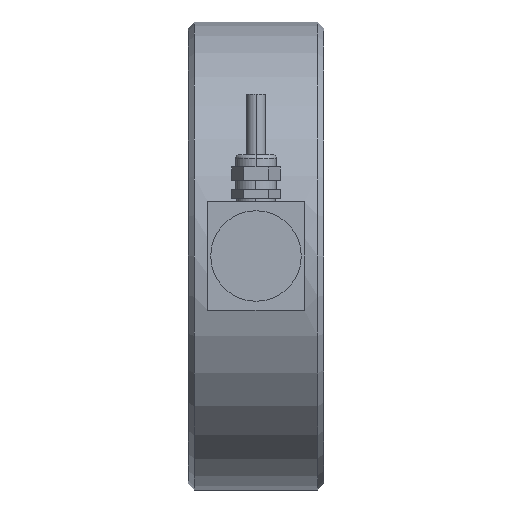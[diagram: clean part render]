
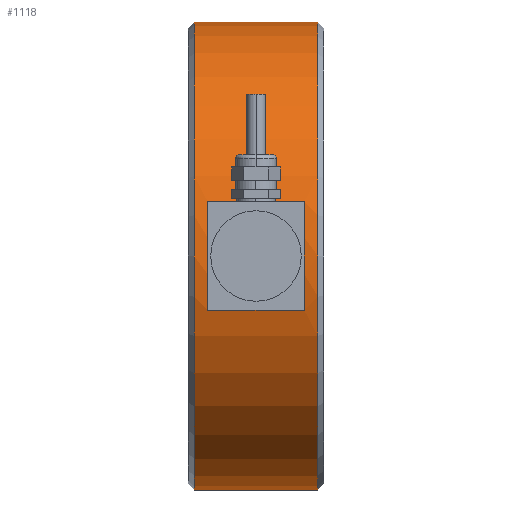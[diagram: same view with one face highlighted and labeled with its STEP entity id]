
A CAD part, left-side view. The second image highlights one B-rep face of the part: STEP entity #1118.
In plain terms, the highlighted cylindrical face has radius 77.5 mm (diameter 155 mm), a partial arc.
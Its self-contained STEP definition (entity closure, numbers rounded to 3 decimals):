
#53 = VERTEX_POINT ( 'NONE', #982 ) ;
#58 = EDGE_CURVE ( 'NONE', #2154, #322, #1004, .T. ) ;
#95 = DIRECTION ( 'NONE',  ( 0., -1., 0. ) ) ;
#108 = EDGE_CURVE ( 'NONE', #1236, #53, #1749, .T. ) ;
#211 = DIRECTION ( 'NONE',  ( 0., 0., 1. ) ) ;
#221 = CIRCLE ( 'NONE', #1543, 77.5 ) ;
#276 = ORIENTED_EDGE ( 'NONE', *, *, #860, .T. ) ;
#322 = VERTEX_POINT ( 'NONE', #1284 ) ;
#470 = LINE ( 'NONE', #2213, #1089 ) ;
#559 = VECTOR ( 'NONE', #1777, 1000. ) ;
#572 = EDGE_LOOP ( 'NONE', ( #1075, #1432, #636, #1220 ) ) ;
#636 = ORIENTED_EDGE ( 'NONE', *, *, #2374, .F. ) ;
#703 = VERTEX_POINT ( 'NONE', #1862 ) ;
#750 = CARTESIAN_POINT ( 'NONE',  ( 0., 0., 0. ) ) ;
#756 = AXIS2_PLACEMENT_3D ( 'NONE', #1196, #2162, #211 ) ;
#815 = EDGE_CURVE ( 'NONE', #1236, #703, #1209, .T. ) ;
#860 = EDGE_CURVE ( 'NONE', #2154, #1773, #1863, .T. ) ;
#864 = CARTESIAN_POINT ( 'NONE',  ( 0., 2., 0. ) ) ;
#871 = EDGE_LOOP ( 'NONE', ( #1793, #276, #1784, #969 ) ) ;
#876 = DIRECTION ( 'NONE',  ( 0., 1., 0. ) ) ;
#882 = CARTESIAN_POINT ( 'NONE',  ( -75.381, 38.5, 18. ) ) ;
#896 = LINE ( 'NONE', #1904, #1719 ) ;
#939 = EDGE_CURVE ( 'NONE', #1773, #2452, #470, .T. ) ;
#963 = CARTESIAN_POINT ( 'NONE',  ( -75.381, 6.5, -18. ) ) ;
#969 = ORIENTED_EDGE ( 'NONE', *, *, #2051, .T. ) ;
#981 = CARTESIAN_POINT ( 'NONE',  ( 0., 6.5, 0. ) ) ;
#982 = CARTESIAN_POINT ( 'NONE',  ( -75.381, 38.5, -18. ) ) ;
#1004 = LINE ( 'NONE', #2519, #559 ) ;
#1075 = ORIENTED_EDGE ( 'NONE', *, *, #815, .F. ) ;
#1089 = VECTOR ( 'NONE', #95, 1000. ) ;
#1110 = AXIS2_PLACEMENT_3D ( 'NONE', #750, #1136, #2319 ) ;
#1118 = ADVANCED_FACE ( 'NONE', ( #2137, #1532 ), #1174, .T. ) ;
#1136 = DIRECTION ( 'NONE',  ( 0., -1., 0. ) ) ;
#1156 = EDGE_CURVE ( 'NONE', #703, #2315, #896, .T. ) ;
#1174 = CYLINDRICAL_SURFACE ( 'NONE', #1110, 77.5 ) ;
#1196 = CARTESIAN_POINT ( 'NONE',  ( 0., 43., 0. ) ) ;
#1209 = CIRCLE ( 'NONE', #2521, 77.5 ) ;
#1220 = ORIENTED_EDGE ( 'NONE', *, *, #1156, .F. ) ;
#1236 = VERTEX_POINT ( 'NONE', #963 ) ;
#1284 = CARTESIAN_POINT ( 'NONE',  ( 0., 2., 77.5 ) ) ;
#1325 = CARTESIAN_POINT ( 'NONE',  ( 0., 43., 77.5 ) ) ;
#1432 = ORIENTED_EDGE ( 'NONE', *, *, #108, .T. ) ;
#1467 = DIRECTION ( 'NONE',  ( 0., 0., -1. ) ) ;
#1497 = AXIS2_PLACEMENT_3D ( 'NONE', #864, #876, #1467 ) ;
#1532 = FACE_BOUND ( 'NONE', #572, .T. ) ;
#1543 = AXIS2_PLACEMENT_3D ( 'NONE', #1587, #1827, #2373 ) ;
#1544 = CARTESIAN_POINT ( 'NONE',  ( -75.381, 0., -18. ) ) ;
#1556 = DIRECTION ( 'NONE',  ( 0., 1., 0. ) ) ;
#1587 = CARTESIAN_POINT ( 'NONE',  ( 0., 38.5, 0. ) ) ;
#1592 = VECTOR ( 'NONE', #1556, 1000. ) ;
#1640 = CARTESIAN_POINT ( 'NONE',  ( 0., 2., -77.5 ) ) ;
#1719 = VECTOR ( 'NONE', #2480, 1000. ) ;
#1749 = LINE ( 'NONE', #1544, #1592 ) ;
#1773 = VERTEX_POINT ( 'NONE', #2112 ) ;
#1777 = DIRECTION ( 'NONE',  ( 0., -1., 0. ) ) ;
#1784 = ORIENTED_EDGE ( 'NONE', *, *, #939, .T. ) ;
#1793 = ORIENTED_EDGE ( 'NONE', *, *, #58, .F. ) ;
#1827 = DIRECTION ( 'NONE',  ( 0., -1., 0. ) ) ;
#1862 = CARTESIAN_POINT ( 'NONE',  ( -75.381, 6.5, 18. ) ) ;
#1863 = CIRCLE ( 'NONE', #756, 77.5 ) ;
#1904 = CARTESIAN_POINT ( 'NONE',  ( -75.381, 0., 18. ) ) ;
#2051 = EDGE_CURVE ( 'NONE', #2452, #322, #2368, .T. ) ;
#2112 = CARTESIAN_POINT ( 'NONE',  ( 0., 43., -77.5 ) ) ;
#2116 = DIRECTION ( 'NONE',  ( 0., 1., 0. ) ) ;
#2137 = FACE_OUTER_BOUND ( 'NONE', #871, .T. ) ;
#2154 = VERTEX_POINT ( 'NONE', #1325 ) ;
#2162 = DIRECTION ( 'NONE',  ( 0., -1., 0. ) ) ;
#2213 = CARTESIAN_POINT ( 'NONE',  ( 0., 0., -77.5 ) ) ;
#2315 = VERTEX_POINT ( 'NONE', #882 ) ;
#2319 = DIRECTION ( 'NONE',  ( 0., 0., -1. ) ) ;
#2355 = DIRECTION ( 'NONE',  ( 0., 0., -1. ) ) ;
#2368 = CIRCLE ( 'NONE', #1497, 77.5 ) ;
#2373 = DIRECTION ( 'NONE',  ( -1., 0., 0. ) ) ;
#2374 = EDGE_CURVE ( 'NONE', #2315, #53, #221, .T. ) ;
#2452 = VERTEX_POINT ( 'NONE', #1640 ) ;
#2480 = DIRECTION ( 'NONE',  ( 0., 1., 0. ) ) ;
#2519 = CARTESIAN_POINT ( 'NONE',  ( 0., 0., 77.5 ) ) ;
#2521 = AXIS2_PLACEMENT_3D ( 'NONE', #981, #2116, #2355 ) ;
